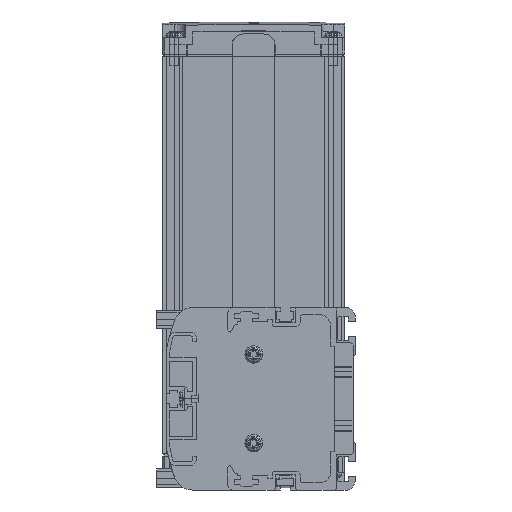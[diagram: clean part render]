
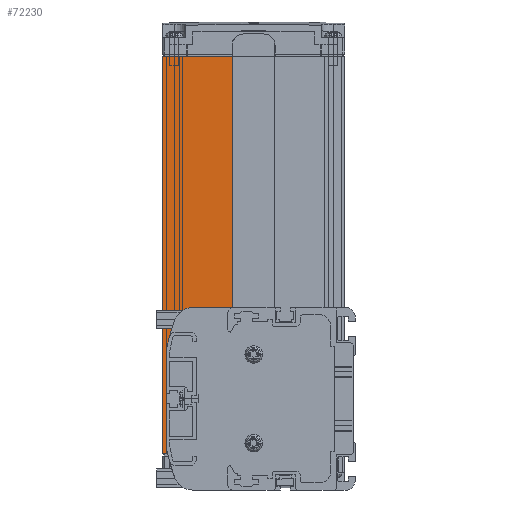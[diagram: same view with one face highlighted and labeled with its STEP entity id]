
A CAD part, left-side view. The second image highlights one B-rep face of the part: STEP entity #72230.
In plain terms, the highlighted planar face has unit normal (-1, 0, 0).
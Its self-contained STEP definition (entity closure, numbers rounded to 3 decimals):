
#70812=DIRECTION('',(0.,-1.,0.));
#70813=VECTOR('',#70812,17.9);
#70814=CARTESIAN_POINT('',(3.,70.5,27.5));
#70815=LINE('',#70814,#70813);
#70820=DIRECTION('',(0.,0.,1.));
#70821=VECTOR('',#70820,51.);
#70822=CARTESIAN_POINT('',(3.,70.5,-23.5));
#70823=LINE('',#70822,#70821);
#70828=DIRECTION('',(0.,-1.,0.));
#70829=VECTOR('',#70828,12.);
#70830=CARTESIAN_POINT('',(3.,82.5,-23.5));
#70831=LINE('',#70830,#70829);
#70832=DIRECTION('',(0.,0.,-1.));
#70833=VECTOR('',#70832,170.);
#70834=CARTESIAN_POINT('',(3.,82.5,146.5));
#70835=LINE('',#70834,#70833);
#70836=DIRECTION('',(0.,1.,0.));
#70837=VECTOR('',#70836,29.9);
#70838=CARTESIAN_POINT('',(3.,52.6,146.5));
#70839=LINE('',#70838,#70837);
#70874=DIRECTION('',(0.,0.,1.));
#70875=VECTOR('',#70874,119.);
#70876=CARTESIAN_POINT('',(3.,52.6,27.5));
#70877=LINE('',#70876,#70875);
#71031=CARTESIAN_POINT('',(3.,70.5,-23.5));
#71032=VERTEX_POINT('',#71031);
#71033=CARTESIAN_POINT('',(3.,82.5,-23.5));
#71034=VERTEX_POINT('',#71033);
#71169=CARTESIAN_POINT('',(3.,52.6,146.5));
#71170=VERTEX_POINT('',#71169);
#71171=CARTESIAN_POINT('',(3.,82.5,146.5));
#71172=VERTEX_POINT('',#71171);
#71229=CARTESIAN_POINT('',(3.,70.5,27.5));
#71230=CARTESIAN_POINT('',(3.,52.6,27.5));
#71231=VERTEX_POINT('',#71229);
#71232=VERTEX_POINT('',#71230);
#72215=CARTESIAN_POINT('',(3.,67.55,61.5));
#72216=DIRECTION('',(1.,0.,0.));
#72217=DIRECTION('',(0.,-1.,0.));
#72218=AXIS2_PLACEMENT_3D('',#72215,#72216,#72217);
#72219=PLANE('',#72218);
#72220=ORIENTED_EDGE('',*,*,#72191,.F.);
#72221=ORIENTED_EDGE('',*,*,#72208,.F.);
#72222=ORIENTED_EDGE('',*,*,#71336,.F.);
#72224=ORIENTED_EDGE('',*,*,#72223,.F.);
#72225=ORIENTED_EDGE('',*,*,#71747,.F.);
#72227=ORIENTED_EDGE('',*,*,#72226,.F.);
#72228=EDGE_LOOP('',(#72220,#72221,#72222,#72224,#72225,#72227));
#72229=FACE_OUTER_BOUND('',#72228,.F.);
#72230=ADVANCED_FACE('',(#72229),#72219,.F.);
#71336=EDGE_CURVE('',#71034,#71032,#70831,.T.);
#71747=EDGE_CURVE('',#71170,#71172,#70839,.T.);
#72191=EDGE_CURVE('',#71231,#71232,#70815,.T.);
#72208=EDGE_CURVE('',#71032,#71231,#70823,.T.);
#72223=EDGE_CURVE('',#71172,#71034,#70835,.T.);
#72226=EDGE_CURVE('',#71232,#71170,#70877,.T.);
